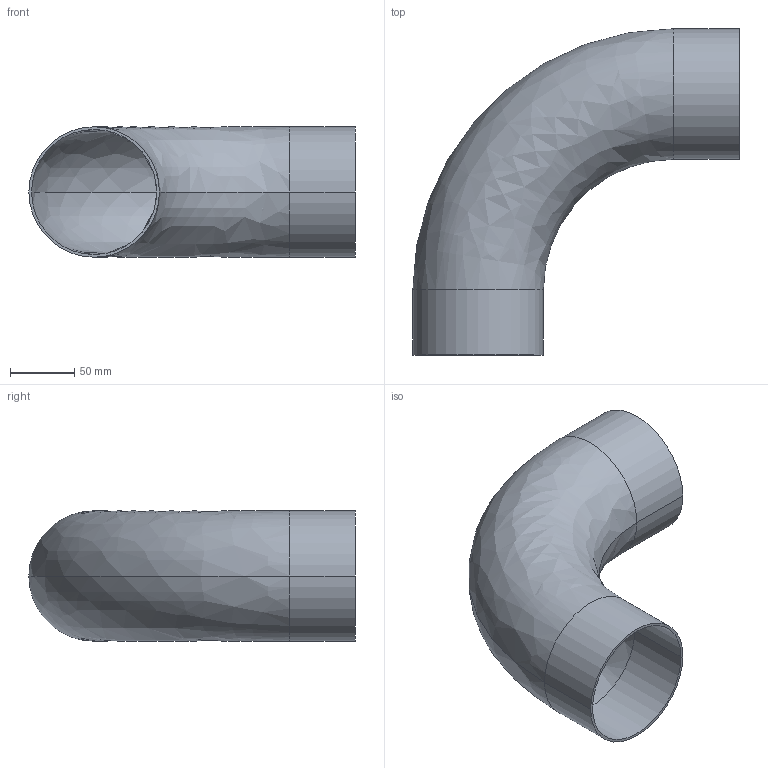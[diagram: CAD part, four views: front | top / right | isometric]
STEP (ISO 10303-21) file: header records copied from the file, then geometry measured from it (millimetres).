
FILE_DESCRIPTION (( 'STEP AP214' ), '1' );
FILE_NAME ('TE2S6L4.0-...STEP', '2016-05-22T10:30:17', ( 'eran' ), ( '' ), 'SwSTEP 2.0', 'SolidWorks 2016', '' );
FILE_SCHEMA (( 'AUTOMOTIVE_DESIGN' ));
Length unit declared in the file: millimetre
Products named in the file (1): TE2S6L4.0-..
Bounding box: 254 x 254 x 101.6 mm (x, y, z)
Volume: 224880.9 mm3; surface area: 214476.1 mm2
Topology: 1 solids, 1 shells, 14 faces, 28 edges, 16 vertices
Faces by surface type: cylinder 8, bspline 4, plane 2
Entity records: 450 total; most frequent: CARTESIAN_POINT 119, DIRECTION 70, ORIENTED_EDGE 56, AXIS2_PLACEMENT_3D 31, EDGE_CURVE 28, CIRCLE 20, VERTEX_POINT 16, EDGE_LOOP 16
